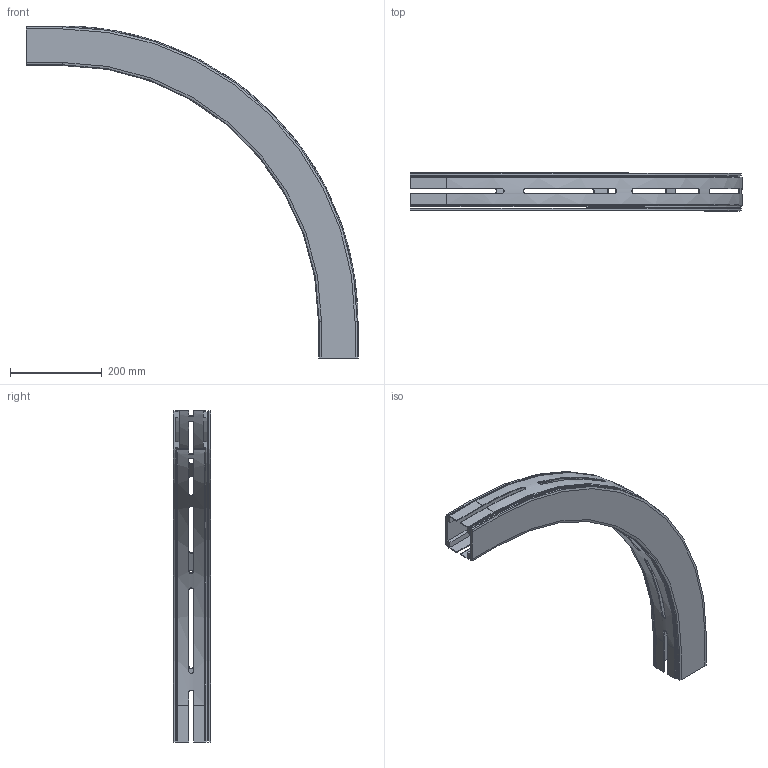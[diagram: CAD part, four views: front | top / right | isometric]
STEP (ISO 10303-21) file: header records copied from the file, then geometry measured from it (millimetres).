
FILE_DESCRIPTION(/* description */ ('GLIDKURVA SERIE 530'),/* implementation_level */ '2;1');
FILE_NAME(/* name */ '530-5375+830-2000-01.stp',/* time_stamp */ '2022-09-20T15:51:16+02:00',/* author */ ('Mathias.Dore'),/* organization */ ('CARRYLINE'),/* preprocessor_version */ 'ST-DEVELOPER v19.2',/* originating_system */ 'Autodesk Inventor 2023',/* authorisation */ '');
FILE_SCHEMA (('AUTOMOTIVE_DESIGN { 1 0 10303 214 3 1 1 }'));
Length unit declared in the file: millimetre
Products named in the file (1): 530-5375+830-2000-01
Bounding box: 723 x 82 x 723 mm (x, y, z)
Volume: 1595643.8 mm3; surface area: 762217.1 mm2
Topology: 2 solids, 2 shells, 191 faces, 530 edges, 348 vertices
Faces by surface type: plane 125, bspline 30, cylinder 28, torus 4, cone 4
Entity records: 7065 total; most frequent: CARTESIAN_POINT 2160, ORIENTED_EDGE 1060, DIRECTION 898, EDGE_CURVE 530, LINE 366, VECTOR 366, VERTEX_POINT 348, AXIS2_PLACEMENT_3D 266
